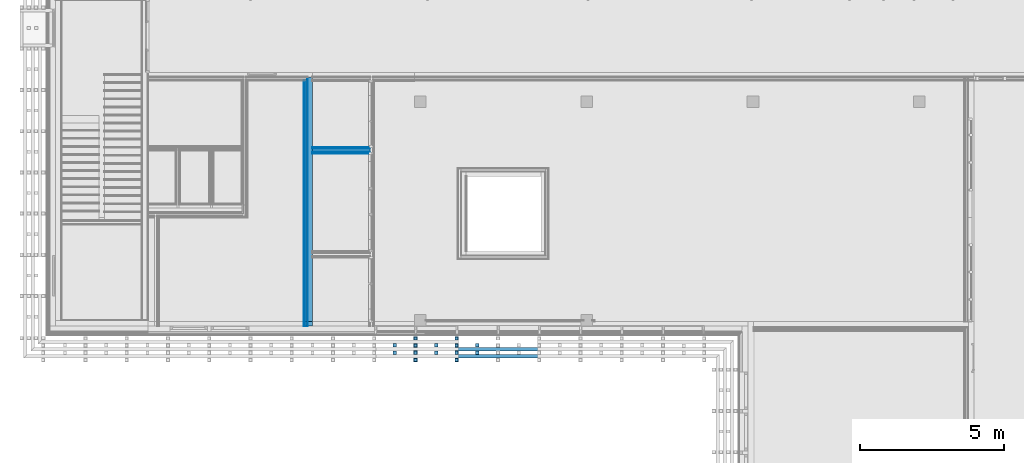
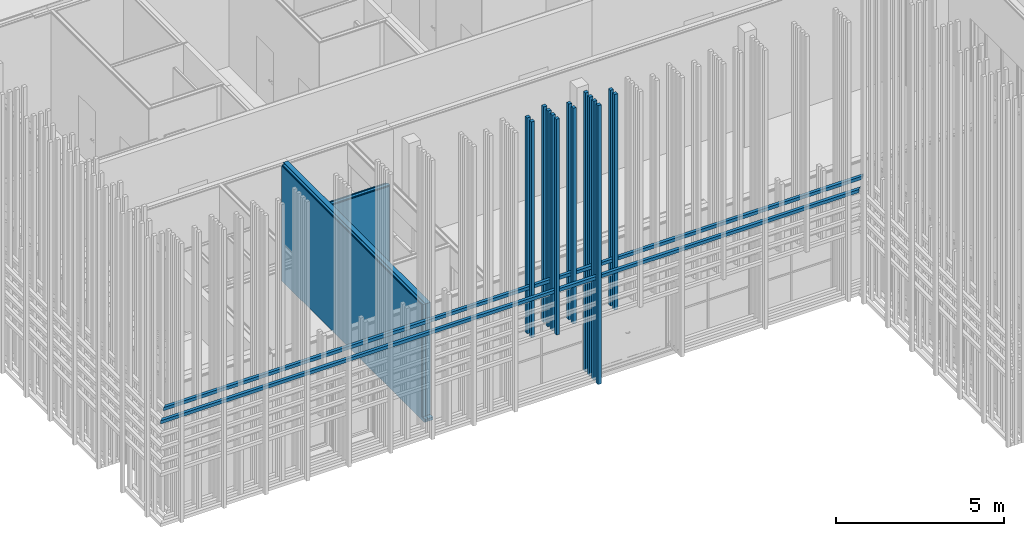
# One storey, part 152 of 260: 16 building element parts, 6 discrete accessories, 2 elements without a shape of their own.
"""IFC2X3 building model written with IfcOpenShell, lengths in millimetres."""

from ifc_helpers import new_model, entity, si_unit, converted_unit, derived_unit, money_unit, direction, frame, origin_with_axes, place, context, subcontext, project, spatial, faceted_brep, material, material_list, type_object, element, aggregate, save


model = new_model("IFC2X3")

# Units and contexts
model_context = context("Model", 3, precision=0.01, world=origin_with_axes(), true_north=direction((0.0, 1.0)))
body_context = subcontext(model_context, "Body", "Model", "MODEL_VIEW")
ifc_project = project(units=[si_unit("LENGTHUNIT", "METRE", prefix="MILLI"), si_unit("AREAUNIT", "SQUARE_METRE"), si_unit("VOLUMEUNIT", "CUBIC_METRE"), converted_unit("PLANEANGLEUNIT", "DEGREE", entity("IfcPlaneAngleMeasure", 0.0174532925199), si_unit("PLANEANGLEUNIT", "RADIAN"), dimensions=[0, 0, 0, 0, 0, 0, 0]), money_unit("EUR"), converted_unit("TIMEUNIT", "Year", entity("IfcTimeMeasure", 31556926.0), si_unit("TIMEUNIT", "SECOND"), dimensions=[0, 0, 1, 0, 0, 0, 0]), si_unit("MASSUNIT", "GRAM", prefix="KILO"), si_unit("THERMODYNAMICTEMPERATUREUNIT", "DEGREE_CELSIUS"), si_unit("LUMINOUSINTENSITYUNIT", "LUMEN"), si_unit("ENERGYUNIT", "JOULE", prefix="MEGA"), derived_unit("THERMALCONDUCTANCEUNIT", [(si_unit("POWERUNIT", "WATT"), 1), (si_unit("LENGTHUNIT", "METRE"), -1), (si_unit("THERMODYNAMICTEMPERATUREUNIT", "KELVIN"), -1)]), derived_unit("SPECIFICHEATCAPACITYUNIT", [(si_unit("ENERGYUNIT", "JOULE"), 1), (si_unit("MASSUNIT", "GRAM", prefix="KILO"), -1), (si_unit("THERMODYNAMICTEMPERATUREUNIT", "KELVIN"), -1)]), derived_unit("MASSDENSITYUNIT", [(si_unit("MASSUNIT", "GRAM", prefix="KILO"), 1), (si_unit("VOLUMEUNIT", "CUBIC_METRE"), -1)])], contexts=[model_context])

# Site, building, storey
site_placement = place(None, origin_with_axes())
site = spatial("IfcSite", under=ifc_project, at=site_placement, Name="Kolde pst 67a", CompositionType="ELEMENT")
building_placement = place(site_placement, origin_with_axes())
building = spatial("IfcBuilding", under=site, at=building_placement, Name="Riigigümnaasium", CompositionType="ELEMENT")
storey_placement = place(building_placement, origin_with_axes())
storey = spatial("IfcBuildingStorey", under=building, at=storey_placement, Name="1. korrus", CompositionType="ELEMENT", Elevation=0.0)

# Discrete accessories
ifc_material_1 = material(Name="_VÄLISVIIMISTLUS - sõrmjätkatud puitprussid 120x115mm, liitekohad vähemärgatavad, Platowood sõrmjätkatud kuusk või samaväärne; eeltöödeldud tuletõkkevõõbaga, tuletundlikkus B-s1, d0, Woodsafe Exterior WFX™ või samaväärne; kinnitused vastavalt EK osale")
ifc_material_list_1 = material_list([ifc_material_1, ifc_material_1, ifc_material_1, ifc_material_1])
discrete_accessory_type_1 = type_object("IfcDiscreteAccessoryType", Name="120 4-ne vertikaalne 870 x 115")
discrete_accessory_1_placement = place(storey_placement, frame((12507.5022112, 47693.7277058, 2580.00014213), z_axis=(0.0, 0.0, 1.0), x_axis=(5.86859191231e-05, 0.999999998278, 0.0)))
element("IfcDiscreteAccessory", 1, at=discrete_accessory_1_placement, inside=storey, type_object=discrete_accessory_type_1, material=ifc_material_list_1, Name="Päikesevarjestus", context=body_context, shape_type="Brep", body=[
    faceted_brep([(-133.0, -70.0, 0.0), (-13.0, -70.0, 0.0), (-13.0, -70.0, 7839.99985787), (-133.0, -70.0, 7839.99985787), (-133.0, 45.0, 0.0), (-13.0, 45.0, 0.0), (-13.0, 45.0, 7839.99985787), (-133.0, 45.0, 7839.99985787)], [[[0, 1, 2, 3]], [[0, 4, 5, 1]], [[1, 5, 6, 2]], [[3, 2, 6, 7]], [[4, 0, 3, 7]], [[5, 4, 7, 6]]]),
    faceted_brep([(-383.0, -70.0, 0.0), (-263.0, -70.0, 0.0), (-263.0, -70.0, 7839.99985787), (-383.0, -70.0, 7839.99985787), (-383.0, 45.0, 0.0), (-263.0, 45.0, 0.0), (-263.0, 45.0, 7839.99985787), (-383.0, 45.0, 7839.99985787)], [[[0, 1, 2, 3]], [[0, 4, 5, 1]], [[1, 5, 6, 2]], [[3, 2, 6, 7]], [[4, 0, 3, 7]], [[5, 4, 7, 6]]]),
    faceted_brep([(-633.0, -70.0, 0.0), (-513.0, -70.0, 0.0), (-513.0, -70.0, 7839.99985787), (-633.0, -70.0, 7839.99985787), (-633.0, 45.0, 0.0), (-513.0, 45.0, 0.0), (-513.0, 45.0, 7839.99985787), (-633.0, 45.0, 7839.99985787)], [[[0, 1, 2, 3]], [[0, 4, 5, 1]], [[1, 5, 6, 2]], [[3, 2, 6, 7]], [[4, 0, 3, 7]], [[5, 4, 7, 6]]]),
    faceted_brep([(-883.0, -70.0, 0.0), (-763.0, -70.0, 0.0), (-763.0, -70.0, 7839.99985787), (-883.0, -70.0, 7839.99985787), (-883.0, 45.0, 0.0), (-763.0, 45.0, 0.0), (-763.0, 45.0, 7839.99985787), (-883.0, 45.0, 7839.99985787)], [[[0, 1, 2, 3]], [[0, 4, 5, 1]], [[1, 5, 6, 2]], [[3, 2, 6, 7]], [[4, 0, 3, 7]], [[5, 4, 7, 6]]]),
])
discrete_accessory_2_placement = place(storey_placement, frame((13937.5036724, 47693.7277058, 280.0), z_axis=(0.0, 0.0, 1.0), x_axis=(5.86859191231e-05, 0.999999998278, 0.0)))
element("IfcDiscreteAccessory", 2, at=discrete_accessory_2_placement, inside=storey, type_object=discrete_accessory_type_1, material=ifc_material_list_1, Name="Päikesevarjestus", context=body_context, shape_type="Brep", body=[
    faceted_brep([(-133.0, -70.0, 0.0), (-13.0, -70.0, 0.0), (-13.0, -70.0, 10140.0), (-133.0, -70.0, 10140.0), (-133.0, 45.0, 0.0), (-13.0, 45.0, 0.0), (-13.0, 45.0, 10140.0), (-133.0, 45.0, 10140.0)], [[[0, 1, 2, 3]], [[0, 4, 5, 1]], [[1, 5, 6, 2]], [[3, 2, 6, 7]], [[4, 0, 3, 7]], [[5, 4, 7, 6]]]),
    faceted_brep([(-383.0, -70.0, 0.0), (-263.0, -70.0, 0.0), (-263.0, -70.0, 10140.0), (-383.0, -70.0, 10140.0), (-383.0, 45.0, 0.0), (-263.0, 45.0, 0.0), (-263.0, 45.0, 10140.0), (-383.0, 45.0, 10140.0)], [[[0, 1, 2, 3]], [[0, 4, 5, 1]], [[1, 5, 6, 2]], [[3, 2, 6, 7]], [[4, 0, 3, 7]], [[5, 4, 7, 6]]]),
    faceted_brep([(-633.0, -70.0, 0.0), (-513.0, -70.0, 0.0), (-513.0, -70.0, 10140.0), (-633.0, -70.0, 10140.0), (-633.0, 45.0, 0.0), (-513.0, 45.0, 0.0), (-513.0, 45.0, 10140.0), (-633.0, 45.0, 10140.0)], [[[0, 1, 2, 3]], [[0, 4, 5, 1]], [[1, 5, 6, 2]], [[3, 2, 6, 7]], [[4, 0, 3, 7]], [[5, 4, 7, 6]]]),
    faceted_brep([(-883.0, -70.0, 0.0), (-763.0, -70.0, 0.0), (-763.0, -70.0, 10140.0), (-883.0, -70.0, 10140.0), (-883.0, 45.0, 0.0), (-763.0, 45.0, 0.0), (-763.0, 45.0, 10140.0), (-883.0, 45.0, 10140.0)], [[[0, 1, 2, 3]], [[0, 4, 5, 1]], [[1, 5, 6, 2]], [[3, 2, 6, 7]], [[4, 0, 3, 7]], [[5, 4, 7, 6]]]),
])
ifc_material_list_2 = material_list([ifc_material_1, ifc_material_1])
discrete_accessory_type_2 = type_object("IfcDiscreteAccessoryType", Name="1+paiksekaitse 4 tk nihkes 2 370 x 355")
discrete_accessory_3_placement = place(storey_placement, frame((-323.006615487, 47673.7130211, 4020.00014213), z_axis=(0.0, 0.0, 1.0), x_axis=(0.000304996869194, -0.999999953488, 0.0)))
element("IfcDiscreteAccessory", 3, at=discrete_accessory_3_placement, inside=storey, type_object=discrete_accessory_type_2, material=ifc_material_list_2, Name="Päikesevarjestus", context=body_context, shape_type="Brep", body=[
    faceted_brep([(495.0, 1345.32625454, 357.5), (493.446680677, 1345.32681946, 357.364102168), (493.488504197, 1460.32681185, 357.367761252), (495.0, 1460.32626215, 357.5), (495.0, 2060.32009957, 357.5), (493.664604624, 2060.32050686, 357.383168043), (493.699679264, 2175.32050151, 357.386236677), (495.0, 2175.32010492, 357.5), (495.0, 2775.32780784, 357.5), (493.936228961, 2775.32819472, 357.406932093), (493.978052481, 2890.32818711, 357.410591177), (495.0, 2890.32781545, 357.5), (495.0, 3490.32016608, 357.5), (494.100750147, 3490.32044035, 357.421325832), (494.135824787, 3605.320435, 357.424394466), (495.0, 3605.32017143, 357.5), (495.0, 4205.32789995, 357.5), (494.425776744, 4205.32810878, 357.449761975), (494.467600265, 4320.32810118, 357.453421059), (495.0, 4320.32790755, 357.5), (495.0, 4920.32023259, 357.5), (494.53689567, 4920.32037384, 357.459483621), (494.57197031, 5035.32036849, 357.462552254), (495.0, 5035.32023794, 357.5), (495.0, 5635.32945325, 357.5), (494.915325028, 5635.32948404, 357.4925919), (494.957148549, 5750.32947644, 357.496250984), (495.0, 5750.32946085, 357.5), (495.0, 6350.3202991, 357.5), (494.973041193, 6350.32030732, 357.49764141), (495.0, 6438.71074128, 357.5), (495.0, 23502.8678106, 357.5), (375.0, 23622.9031593, 347.001360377), (375.0, -375.114462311, 347.001360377), (495.0, -495.15109025, 357.5), (495.0, 630.320033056, 357.5), (493.228459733, 630.32057337, 357.34501031), (493.263534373, 745.320568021, 357.348078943), (495.0, 745.320038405, 357.5), (495.0, 1345.32625454, 242.5), (493.446680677, 1345.32681946, 242.5), (493.488504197, 1460.32681185, 242.5), (495.0, 1460.32626215, 242.5), (495.0, 2060.32009957, 242.5), (493.664604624, 2060.32050686, 242.5), (493.699679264, 2175.32050151, 242.5), (495.0, 2175.32010492, 242.5), (495.0, 2775.32780784, 242.5), (493.936228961, 2775.32819472, 242.5), (493.978052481, 2890.32818711, 242.5), (495.0, 2890.32781545, 242.5), (495.0, 3490.32016608, 242.5), (494.100750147, 3490.32044035, 242.5), (494.135824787, 3605.320435, 242.5), (495.0, 3605.32017143, 242.5), (495.0, 4205.32789995, 242.5), (494.425776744, 4205.32810878, 242.5), (494.467600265, 4320.32810118, 242.5), (495.0, 4320.32790755, 242.5), (495.0, 4920.32023259, 242.5), (494.53689567, 4920.32037384, 242.5), (494.57197031, 5035.32036849, 242.5), (495.0, 5035.32023794, 242.5), (495.0, 5635.32945325, 242.5), (494.915325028, 5635.32948404, 242.5), (494.957148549, 5750.32947644, 242.5), (495.0, 5750.32946085, 242.5), (495.0, 6350.3202991, 242.5), (494.973041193, 6350.32030732, 242.5), (495.0, 6438.71074128, 242.5), (495.0, 23502.8678106, 242.5), (375.0, 23622.9031593, 242.5), (375.0, -375.114462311, 242.5), (495.0, -495.15109025, 242.5), (495.0, 630.320033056, 242.5), (493.228459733, 630.32057337, 242.5), (493.263534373, 745.320568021, 242.5), (495.0, 745.320038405, 242.5)], [[[0, 1, 2, 3, 4, 5, 6, 7, 8, 9, 10, 11, 12, 13, 14, 15, 16, 17, 18, 19, 20, 21, 22, 23, 24, 25, 26, 27, 28, 29, 30, 31, 32, 33, 34, 35, 36, 37, 38]], [[1, 0, 39, 40]], [[2, 1, 40, 41]], [[3, 2, 41, 42]], [[3, 42, 43, 4]], [[5, 4, 43, 44]], [[6, 5, 44, 45]], [[7, 6, 45, 46]], [[46, 47, 8, 7]], [[48, 9, 8, 47]], [[49, 10, 9, 48]], [[50, 11, 10, 49]], [[12, 11, 50, 51]], [[51, 52, 13, 12]], [[52, 53, 14, 13]], [[53, 54, 15, 14]], [[15, 54, 55, 16]], [[55, 56, 17, 16]], [[56, 57, 18, 17]], [[57, 58, 19, 18]], [[59, 20, 19, 58]], [[20, 59, 60, 21]], [[21, 60, 61, 22]], [[22, 61, 62, 23]], [[24, 23, 62, 63]], [[24, 63, 64, 25]], [[25, 64, 65, 26]], [[26, 65, 66, 27]], [[66, 67, 28, 27]], [[29, 28, 67, 68]], [[69, 30, 29, 68]], [[30, 69, 70, 31]], [[32, 31, 70, 71]], [[72, 33, 32, 71]], [[73, 34, 33, 72]], [[73, 74, 35, 34]], [[75, 36, 35, 74]], [[76, 37, 36, 75]], [[77, 38, 37, 76]], [[39, 0, 38, 77]], [[40, 39, 77, 76, 75, 74, 73, 72, 71, 70, 69, 68, 67, 66, 65, 64, 63, 62, 61, 60, 59, 58, 57, 56, 55, 54, 53, 52, 51, 50, 49, 48, 47, 46, 45, 44, 43, 42, 41]]]),
    faceted_brep([(745.0, 1345.23533384, 117.5), (743.446664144, 1345.23589876, 117.364100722), (743.488487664, 1460.23589116, 117.367759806), (745.0, 1460.23534145, 117.5), (745.0, 2775.23688714, 117.5), (743.936212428, 2775.23727402, 117.406930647), (743.978035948, 2890.23726641, 117.410589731), (745.0, 2890.23689474, 117.5), (745.0, 4205.23697925, 117.5), (744.425760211, 4205.23718809, 117.449760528), (744.467583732, 4320.23718048, 117.453419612), (745.0, 4320.23698685, 117.5), (745.0, 5635.23853254, 117.5), (744.915308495, 5635.23856334, 117.492590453), (744.957132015, 5750.23855574, 117.496249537), (745.0, 5750.23854015, 117.5), (745.0, 23252.7941674, 117.5), (625.0, 23372.8295161, 107.001360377), (625.0, -625.190770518, 107.001360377), (745.0, -745.227398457, 117.5), (745.0, 1345.23533384, 2.5), (743.446664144, 1345.23589876, 2.5), (743.488487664, 1460.23589116, 2.5), (745.0, 1460.23534145, 2.5), (745.0, 2775.23688714, 2.5), (743.936212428, 2775.23727402, 2.5), (743.978035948, 2890.23726641, 2.5), (745.0, 2890.23689474, 2.5), (745.0, 4205.23697925, 2.5), (744.425760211, 4205.23718809, 2.5), (744.467583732, 4320.23718048, 2.5), (745.0, 4320.23698685, 2.5), (745.0, 5635.23853254, 2.5), (744.915308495, 5635.23856334, 2.5), (744.957132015, 5750.23855574, 2.5), (745.0, 5750.23854015, 2.5), (745.0, 23252.7941674, 2.5), (625.0, 23372.8295161, 2.5), (625.0, -625.190770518, 2.5), (745.0, -745.227398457, 2.5)], [[[0, 1, 2, 3, 4, 5, 6, 7, 8, 9, 10, 11, 12, 13, 14, 15, 16, 17, 18, 19]], [[1, 0, 20, 21]], [[2, 1, 21, 22]], [[3, 2, 22, 23]], [[3, 23, 24, 4]], [[5, 4, 24, 25]], [[6, 5, 25, 26]], [[7, 6, 26, 27]], [[7, 27, 28, 8]], [[9, 8, 28, 29]], [[10, 9, 29, 30]], [[11, 10, 30, 31]], [[11, 31, 32, 12]], [[13, 12, 32, 33]], [[14, 13, 33, 34]], [[15, 14, 34, 35]], [[15, 35, 36, 16]], [[37, 17, 16, 36]], [[37, 38, 18, 17]], [[38, 39, 19, 18]], [[20, 0, 19, 39]], [[21, 20, 39, 38, 37, 36, 35, 34, 33, 32, 31, 30, 29, 28, 27, 26, 25, 24, 23, 22]]]),
])
discrete_accessory_type_3 = type_object("IfcDiscreteAccessoryType", Name="1+paiksekaitse 3 370 x 115")
for number, where, z_axis, x_axis in (
    (4, (13294.9643617, 46713.6768307, 2580.00014213), (0.0, 0.0, 1.0), (0.0, 1.0, 0.0)),
    (5, (11864.9643617, 46713.6768307, 2580.00014213), (0.0, 0.0, 1.0), (0.0, 1.0, 0.0)),
    (6, (14724.9643617, 46713.6768307, 2580.00014213), (0.0, 0.0, 1.0), (0.0, 1.0, 0.0)),
):
    element("IfcDiscreteAccessory", number, at=place(storey_placement, frame(where, z_axis=z_axis, x_axis=x_axis)), inside=storey, type_object=discrete_accessory_type_3, material=ifc_material_list_2, Name="Päikesevarjestus", context=body_context, shape_type="Brep", body=[
        faceted_brep([(467.0, 117.5, 0.0), (347.0, 117.5, 0.0), (347.0, 117.5, 7839.99985787), (467.0, 117.5, 7839.99985787), (467.0, 2.5, 0.0), (347.0, 2.5, 0.0), (347.0, 2.5, 7839.99985787), (467.0, 2.5, 7839.99985787)], [[[0, 1, 2, 3]], [[0, 4, 5, 1]], [[1, 5, 6, 2]], [[3, 2, 6, 7]], [[4, 0, 3, 7]], [[5, 4, 7, 6]]]),
        faceted_brep([(717.0, 117.5, 0.0), (597.0, 117.5, 0.0), (597.0, 117.5, 7839.99985787), (717.0, 117.5, 7839.99985787), (717.0, 2.5, 0.0), (597.0, 2.5, 0.0), (597.0, 2.5, 7839.99985787), (717.0, 2.5, 7839.99985787)], [[[0, 1, 2, 3]], [[0, 4, 5, 1]], [[1, 5, 6, 2]], [[3, 2, 6, 7]], [[4, 0, 3, 7]], [[5, 4, 7, 6]]]),
    ])

# Wall, building element parts
wall_type_1 = type_object("IfcWallType", Name="SS-CLT-16/1_vill75+krohv 52 dB 300", PredefinedType="NOTDEFINED")
wall_1_placement = place(storey_placement, frame((8939.99606433, 56839.9979478, 0.0), z_axis=(0.0, 0.0, 1.0), x_axis=(-1.11147909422e-05, -0.999999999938, 0.0)))
wall_1 = element("IfcWall", 7, at=wall_1_placement, inside=storey, type_object=wall_type_1, Name="Sisesein")
ifc_material_2 = material(Name="_KANDETARIND - CLT ristkihtliimpuit vastavalt EK osale, CLT paigaldusvuugid teibitakse ROTHOBLAAS teibiga")
building_element_part_1_placement = place(wall_1_placement, origin_with_axes())
building_element_part_1 = element("IfcBuildingElementPart", 8, at=building_element_part_1_placement, material=ifc_material_2, Name="_KANDETARIND - CLT ristkihtliimpuit vastavalt EK osale, CLT paigaldusvuugid teibitakse ROTHOBLAAS teibiga", context=body_context, shape_type="Brep", body=[
    faceted_brep([(160.001778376, -160.0, 4170.0), (159.99999999, 0.00176987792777, 4170.0), (160.00000001, 0.0, 0.0), (160.001778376, -160.0, 0.0), (8640.01711757, 9.33068360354e-05, 4170.0), (8640.01889593, -160.0, 4170.0), (8640.01711757, 0.0, 100.0), (8800.01711758, 0.0, 100.0), (8800.01711758, 0.0, 0.0), (8800.01711758, -160.0, 0.0), (8800.01889594, -159.99999998, 100.0), (8640.01889593, -160.0, 100.0)], [[[0, 1, 2, 3]], [[4, 1, 0, 5]], [[1, 4, 6, 7, 8, 2]], [[2, 8, 9, 3]], [[5, 0, 3, 9, 10, 11]], [[4, 5, 11, 6]], [[10, 7, 6, 11]], [[8, 7, 10, 9]]]),
])
ifc_material_3 = material(Name="_ÕHKVAHE")
building_element_part_2_placement = place(wall_1_placement, origin_with_axes())
building_element_part_2 = element("IfcBuildingElementPart", 9, at=building_element_part_2_placement, material=ifc_material_3, Name="_ÕHKVAHE", context=body_context, shape_type="Brep", body=[
    faceted_brep([(175.001945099, -175.0, 4170.0), (175.001778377, -160.0, 4170.0), (175.001778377, -160.0, 0.0), (175.001945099, -175.0, 0.0), (8640.01889593, -160.0, 4170.0), (8640.01906266, -175.0, 4170.0), (8640.01889593, -160.0, 100.0), (8800.01889594, -159.99999998, 100.0), (8800.01711758, -160.0, 0.0), (8800.01711758, -175.0, 0.0), (8800.01906267, -174.999999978, 100.0), (8640.01906266, -175.0, 100.0)], [[[0, 1, 2, 3]], [[4, 1, 0, 5]], [[1, 4, 6, 7, 8, 2]], [[2, 8, 9, 3]], [[5, 0, 3, 9, 10, 11]], [[4, 5, 11, 6]], [[10, 7, 6, 11]], [[8, 7, 10, 9]]]),
])
ifc_material_4 = material(Name="_KARKASS - metallkarkass CW 75/50/06 ja UW 75/40/06, samm 600, vahel mineraalvill, helineeldetegur αw = 1.0,  ISOVER ACOUSTIC 75mm või samaväärne")
building_element_part_3_placement = place(wall_1_placement, origin_with_axes())
building_element_part_3 = element("IfcBuildingElementPart", 10, at=building_element_part_3_placement, material=ifc_material_4, Name="_KARKASS - metallkarkass CW 75/50/06 ja UW 75/40/06, samm 600, vahel mineraalvill, helineeldetegur αw = 1.0,  ISOVER ACOUSTIC 75mm või samaväärne", context=body_context, shape_type="Brep", body=[
    faceted_brep([(250.001945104, -175.0, 4170.0), (250.001945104, -175.0, 0.0), (250.002778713, -250.0, 0.0), (250.002778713, -250.0, 4170.0), (8640.01906266, -175.0, 4170.0), (8640.01906266, -175.0, 100.0), (8800.01906267, -174.999999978, 100.0), (8800.01711758, -175.0, 0.0), (8800.01711758, -250.0, 0.0), (8640.01989627, -250.0, 4170.0), (8800.01989628, -249.999999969, 100.0), (8640.01989627, -250.0, 100.0)], [[[0, 1, 2, 3]], [[0, 4, 5, 6, 7, 1]], [[1, 7, 8, 2]], [[9, 3, 2, 8, 10, 11]], [[4, 0, 3, 9]], [[4, 9, 11, 5]], [[10, 6, 5, 11]], [[7, 6, 10, 8]]]),
])
ifc_material_5 = material(Name="_PLAATMATERJAL - OSB3 plaat")
building_element_part_4_placement = place(wall_1_placement, origin_with_axes())
building_element_part_4 = element("IfcBuildingElementPart", 11, at=building_element_part_4_placement, material=ifc_material_5, Name="_PLAATMATERJAL - OSB3 plaat", context=body_context, shape_type="Brep", body=[
    faceted_brep([(260.002889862, -260.0, 4170.0), (260.002778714, -250.0, 4170.0), (260.002778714, -250.0, 0.0), (260.002889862, -260.0, 0.0), (8640.01989627, -250.0, 4170.0), (8640.02000741, -260.0, 4170.0), (8640.01989627, -250.0, 100.0), (8800.01989628, -249.999999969, 100.0), (8800.01711758, -250.0, 0.0), (8800.01711758, -260.0, 0.0), (8800.02000742, -259.999999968, 100.0), (8640.02000741, -260.0, 100.0)], [[[0, 1, 2, 3]], [[4, 1, 0, 5]], [[1, 4, 6, 7, 8, 2]], [[2, 8, 9, 3]], [[5, 0, 3, 9, 10, 11]], [[4, 5, 11, 6]], [[10, 7, 6, 11]], [[8, 7, 10, 9]]]),
])
ifc_material_6 = material(Name="_PLAATMATERJAL - tuletõkkekipsplaat, Knauf Red GKF või samaväärne")
building_element_part_5_placement = place(wall_1_placement, origin_with_axes())
building_element_part_5 = element("IfcBuildingElementPart", 12, at=building_element_part_5_placement, material=ifc_material_6, Name="_PLAATMATERJAL - tuletõkkekipsplaat, Knauf Red GKF või samaväärne", context=body_context, shape_type="Brep", body=[
    faceted_brep([(275.003056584, -275.0, 4170.0), (275.002889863, -260.0, 4170.0), (275.002889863, -260.0, 0.0), (275.003056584, -275.0, 0.0), (8640.02000741, -260.0, 4170.0), (8640.02017414, -275.0, 4170.0), (8640.02000741, -260.0, 100.0), (8800.02000742, -259.999999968, 100.0), (8800.01711758, -260.0, 0.0), (8800.01711758, -275.0, 0.0), (8800.02017414, -274.999999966, 100.0), (8640.02017414, -275.0, 100.0)], [[[0, 1, 2, 3]], [[4, 1, 0, 5]], [[1, 4, 6, 7, 8, 2]], [[2, 8, 9, 3]], [[5, 0, 3, 9, 10, 11]], [[4, 5, 11, 6]], [[10, 7, 6, 11]], [[8, 7, 10, 9]]]),
])
building_element_part_6_placement = place(wall_1_placement, origin_with_axes())
building_element_part_6 = element("IfcBuildingElementPart", 13, at=building_element_part_6_placement, material=ifc_material_6, Name="_PLAATMATERJAL - tuletõkkekipsplaat, Knauf Red GKF või samaväärne", context=body_context, shape_type="Brep", body=[
    faceted_brep([(290.003223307, -290.0, 4170.0), (290.003056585, -275.0, 4170.0), (290.003056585, -275.0, 0.0), (290.003223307, -290.0, 0.0), (8640.02017414, -275.0, 4170.0), (8640.02034086, -290.0, 4170.0), (8640.02017414, -275.0, 100.0), (8800.02017414, -274.999999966, 100.0), (8800.01711758, -275.0, 0.0), (8800.01711758, -290.0, 0.0), (8800.02034087, -289.999999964, 100.0), (8640.02034086, -290.0, 100.0)], [[[0, 1, 2, 3]], [[4, 1, 0, 5]], [[1, 4, 6, 7, 8, 2]], [[2, 8, 9, 3]], [[5, 0, 3, 9, 10, 11]], [[4, 5, 11, 6]], [[10, 7, 6, 11]], [[8, 7, 10, 9]]]),
])
ifc_material_7 = material(Name="_VIIMISTLUSKIHT - viimistlus vastavalt SA osale")
building_element_part_7_placement = place(wall_1_placement, origin_with_axes())
building_element_part_7 = element("IfcBuildingElementPart", 14, at=building_element_part_7_placement, material=ifc_material_7, Name="_VIIMISTLUSKIHT - viimistlus vastavalt SA osale", context=body_context, shape_type="Brep", body=[
    faceted_brep([(300.003334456, -300.0, 4170.0), (300.003223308, -290.0, 4170.0), (300.003223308, -290.0, 0.0), (300.003334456, -300.0, 0.0), (8640.02034086, -290.0, 4170.0), (8640.020452, -300.0, 4170.0), (8640.02034086, -290.0, 100.0), (8800.02034087, -289.999999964, 100.0), (8800.01711758, -290.0, 0.0), (8800.01711758, -300.0, 0.0), (8800.02045201, -299.999999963, 100.0), (8640.020452, -300.0, 100.0)], [[[0, 1, 2, 3]], [[4, 1, 0, 5]], [[1, 4, 6, 7, 8, 2]], [[2, 8, 9, 3]], [[5, 0, 3, 9, 10, 11]], [[4, 5, 11, 6]], [[10, 7, 6, 11]], [[8, 7, 10, 9]]]),
])
aggregate(wall_1, [building_element_part_1, building_element_part_2, building_element_part_3, building_element_part_4, building_element_part_5, building_element_part_6, building_element_part_7])

wall_type_2 = type_object("IfcWallType", Name="SS-PK-10/1_vill100+2dold 220", PredefinedType="NOTDEFINED")
wall_2_placement = place(storey_placement, frame((11109.6182559, 54244.9939941, 0.0), z_axis=(0.0, 0.0, 1.0), x_axis=(-0.999999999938, 1.11147909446e-05, 0.0)))
wall_2 = element("IfcWall", 15, at=wall_2_placement, inside=storey, type_object=wall_type_2, Name="Sisesein")
ifc_material_8 = material(Name="_VIIMISTLUSKIHT - Dold plaat vastavalt SA osale")
building_element_part_8_placement = place(wall_2_placement, origin_with_axes())
building_element_part_8 = element("IfcBuildingElementPart", 16, at=building_element_part_8_placement, material=ifc_material_8, Name="_VIIMISTLUSKIHT - Dold plaat vastavalt SA osale", context=body_context, shape_type="Brep", body=[
    faceted_brep([(2169.65103438, 200.0, 0.0), (2169.64880843, 200.0, 370.0), (2169.65103438, 200.0, 400.0), (2169.65103438, 200.0, 4170.0), (220.030762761, 200.0, 4170.0), (220.030762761, 200.0, 0.0), (2169.65103438, 220.0, 0.0), (2169.65103438, 220.0, 370.0), (2169.64858613, 220.0, 400.0), (2169.65103438, 220.0, 4170.0), (220.033838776, 220.0, 4170.0), (220.033838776, 220.0, 0.0)], [[[0, 1, 2, 3, 4, 5]], [[6, 7, 1, 0]], [[8, 2, 1, 7]], [[3, 2, 8, 9]], [[3, 9, 10, 4]], [[11, 5, 4, 10]], [[6, 0, 5, 11]], [[8, 7, 6, 11, 10, 9]]]),
])
ifc_material_9 = material(Name="_KARKASS - eriprofiilkinnitus vastavalt sisemisele plaatviimistlusele")
building_element_part_9_placement = place(wall_2_placement, origin_with_axes())
building_element_part_9 = element("IfcBuildingElementPart", 17, at=building_element_part_9_placement, material=ifc_material_9, Name="_KARKASS - eriprofiilkinnitus vastavalt sisemisele plaatviimistlusele", context=body_context, shape_type="Brep", body=[
    faceted_brep([(200.029224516, 190.0, 0.0), (2169.65103438, 190.0, 0.0), (2169.64891957, 190.0, 370.0), (2169.65103438, 190.0, 400.0), (2169.65103438, 190.0, 4170.0), (200.029224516, 190.0, 4170.0), (200.030762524, 200.0, 0.0), (2169.65103438, 200.0, 0.0), (2169.65103438, 200.0, 370.0), (2169.64880843, 200.0, 400.0), (2169.65103438, 200.0, 4170.0), (200.030762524, 200.0, 4170.0)], [[[0, 1, 2, 3, 4, 5]], [[6, 7, 1, 0]], [[1, 7, 8, 2]], [[8, 9, 3, 2]], [[10, 4, 3, 9]], [[5, 4, 10, 11]], [[11, 6, 0, 5]], [[9, 8, 7, 6, 11, 10]]]),
])
building_element_part_10_placement = place(wall_2_placement, origin_with_axes())
building_element_part_10 = element("IfcBuildingElementPart", 18, at=building_element_part_10_placement, material=ifc_material_6, Name="_PLAATMATERJAL - tuletõkkekipsplaat, Knauf Red GKF või samaväärne", context=body_context, shape_type="Brep", body=[
    faceted_brep([(2169.65103438, 190.0, 0.0), (2169.65103438, 190.0, 370.0), (2169.6490863, 175.0, 370.0), (2169.65103438, 175.0, 0.0), (190.029224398, 190.0, 0.0), (190.029224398, 190.0, 4170.0), (2169.65103438, 190.0, 4170.0), (2169.64891957, 190.0, 400.0), (2169.6490863, 175.0, 400.0), (2169.65103438, 175.0, 4170.0), (190.026917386, 175.0, 4170.0), (190.026917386, 175.0, 0.0)], [[[0, 1, 2, 3]], [[1, 0, 4, 5, 6, 7]], [[1, 7, 8, 2]], [[3, 2, 8, 9, 10, 11]], [[0, 3, 11, 4]], [[5, 4, 11, 10]], [[9, 6, 5, 10]], [[6, 9, 8, 7]]]),
])
building_element_part_11_placement = place(wall_2_placement, origin_with_axes())
building_element_part_11 = element("IfcBuildingElementPart", 19, at=building_element_part_11_placement, material=ifc_material_6, Name="_PLAATMATERJAL - tuletõkkekipsplaat, Knauf Red GKF või samaväärne", context=body_context, shape_type="Brep", body=[
    faceted_brep([(2169.65103438, 175.0, 0.0), (2169.65103438, 175.0, 370.0), (2169.64925302, 160.0, 370.0), (2169.65103438, 160.0, 0.0), (175.026917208, 175.0, 0.0), (175.026917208, 175.0, 4170.0), (2169.65103438, 175.0, 4170.0), (2169.6490863, 175.0, 400.0), (2169.64925302, 160.0, 400.0), (2169.65103438, 160.0, 4170.0), (175.024610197, 160.0, 4170.0), (175.024610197, 160.0, 0.0)], [[[0, 1, 2, 3]], [[1, 0, 4, 5, 6, 7]], [[1, 7, 8, 2]], [[3, 2, 8, 9, 10, 11]], [[0, 3, 11, 4]], [[5, 4, 11, 10]], [[9, 6, 5, 10]], [[6, 9, 8, 7]]]),
])
ifc_material_10 = material(Name="_KARKASS - puitpruss 100x50mm vertikaalne, samm 600mm, vahel mineraalvill, helineeldetegur αw = 1.0, ISOVER ACOUSTIC 100mm või samaväärne")
building_element_part_12_placement = place(wall_2_placement, origin_with_axes())
building_element_part_12 = element("IfcBuildingElementPart", 20, at=building_element_part_12_placement, material=ifc_material_10, Name="_KARKASS - puitpruss 100x50mm vertikaalne, samm 600mm, vahel mineraalvill, helineeldetegur αw = 1.0, ISOVER ACOUSTIC 100mm või samaväärne", context=body_context, shape_type="Brep", body=[
    faceted_brep([(2169.65103438, 160.0, 0.0), (2169.64925302, 160.0, 370.0), (2169.6503645, 59.9999999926, 370.0), (2169.65103438, 60.0, 0.0), (160.024610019, 160.0, 0.0), (160.024610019, 160.0, 4170.0), (2169.65103438, 160.0, 4170.0), (2169.64925302, 160.0, 400.0), (2169.6503645, 59.9999999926, 400.0), (2169.65103438, 60.0, 4170.0), (160.00922994, 60.0, 4170.0), (160.00922994, 60.0, 0.0)], [[[0, 1, 2, 3]], [[1, 0, 4, 5, 6, 7]], [[8, 2, 1, 7]], [[8, 9, 10, 11, 3, 2]], [[0, 3, 11, 4]], [[5, 4, 11, 10]], [[9, 6, 5, 10]], [[6, 9, 8, 7]]]),
])
building_element_part_13_placement = place(wall_2_placement, origin_with_axes())
building_element_part_13 = element("IfcBuildingElementPart", 21, at=building_element_part_13_placement, material=ifc_material_6, Name="_PLAATMATERJAL - tuletõkkekipsplaat, Knauf Red GKF või samaväärne", context=body_context, shape_type="Brep", body=[
    faceted_brep([(175.009230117, 60.0, 4170.0), (2169.65103438, 60.0, 4170.0), (2169.65103438, 60.0, 0.0), (175.009230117, 60.0, 0.0), (175.006923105, 45.0, 4170.0), (2169.65103438, 45.0, 4170.0), (2169.65103438, 45.0, 0.0), (175.006923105, 45.0, 0.0)], [[[0, 1, 2, 3]], [[4, 5, 1, 0]], [[6, 2, 1, 5]], [[3, 2, 6, 7]], [[4, 0, 3, 7]], [[7, 6, 5, 4]]]),
])
building_element_part_14_placement = place(wall_2_placement, origin_with_axes())
building_element_part_14 = element("IfcBuildingElementPart", 22, at=building_element_part_14_placement, material=ifc_material_6, Name="_PLAATMATERJAL - tuletõkkekipsplaat, Knauf Red GKF või samaväärne", context=body_context, shape_type="Brep", body=[
    faceted_brep([(190.006923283, 45.0, 4170.0), (2169.65103438, 45.0, 4170.0), (2169.65103438, 45.0, 0.0), (190.006923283, 45.0, 0.0), (190.004616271, 30.0, 4170.0), (2169.65103438, 30.0, 4170.0), (2169.65103438, 30.0, 0.0), (190.004616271, 30.0, 0.0)], [[[0, 1, 2, 3]], [[4, 5, 1, 0]], [[6, 2, 1, 5]], [[3, 2, 6, 7]], [[4, 0, 3, 7]], [[7, 6, 5, 4]]]),
])
building_element_part_15_placement = place(wall_2_placement, origin_with_axes())
building_element_part_15 = element("IfcBuildingElementPart", 23, at=building_element_part_15_placement, material=ifc_material_9, Name="_KARKASS - eriprofiilkinnitus vastavalt sisemisele plaatviimistlusele", context=body_context, shape_type="Brep", body=[
    faceted_brep([(200.004616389, 30.0, 4170.0), (2169.65103438, 30.0, 4170.0), (2169.65103438, 30.0, 0.0), (200.004616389, 30.0, 0.0), (200.003078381, 20.0, 4170.0), (2169.65103438, 20.0, 4170.0), (2169.65103438, 20.0, 0.0), (200.003078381, 20.0, 0.0)], [[[0, 1, 2, 3]], [[4, 5, 1, 0]], [[6, 2, 1, 5]], [[3, 2, 6, 7]], [[4, 0, 3, 7]], [[7, 6, 5, 4]]]),
])
building_element_part_16_placement = place(wall_2_placement, origin_with_axes())
building_element_part_16 = element("IfcBuildingElementPart", 24, at=building_element_part_16_placement, material=ifc_material_8, Name="_VIIMISTLUSKIHT - Dold plaat vastavalt SA osale", context=body_context, shape_type="Brep", body=[
    faceted_brep([(220.003078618, 19.9999999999, 4170.0), (2169.65103438, 19.9999999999, 4170.0), (2169.65103438, 20.0, 0.0), (220.003078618, 20.0, 0.0), (220.000002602, 0.0, 4170.0), (2169.65103438, 0.0, 4170.0), (2169.65103438, 0.0, 0.0), (220.000002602, 0.0, 0.0)], [[[0, 1, 2, 3]], [[4, 5, 1, 0]], [[6, 2, 1, 5]], [[3, 2, 6, 7]], [[4, 0, 3, 7]], [[7, 6, 5, 4]]]),
])
aggregate(wall_2, [building_element_part_8, building_element_part_9, building_element_part_10, building_element_part_11, building_element_part_12, building_element_part_13, building_element_part_14, building_element_part_15, building_element_part_16])

save(model, "model.ifc")
